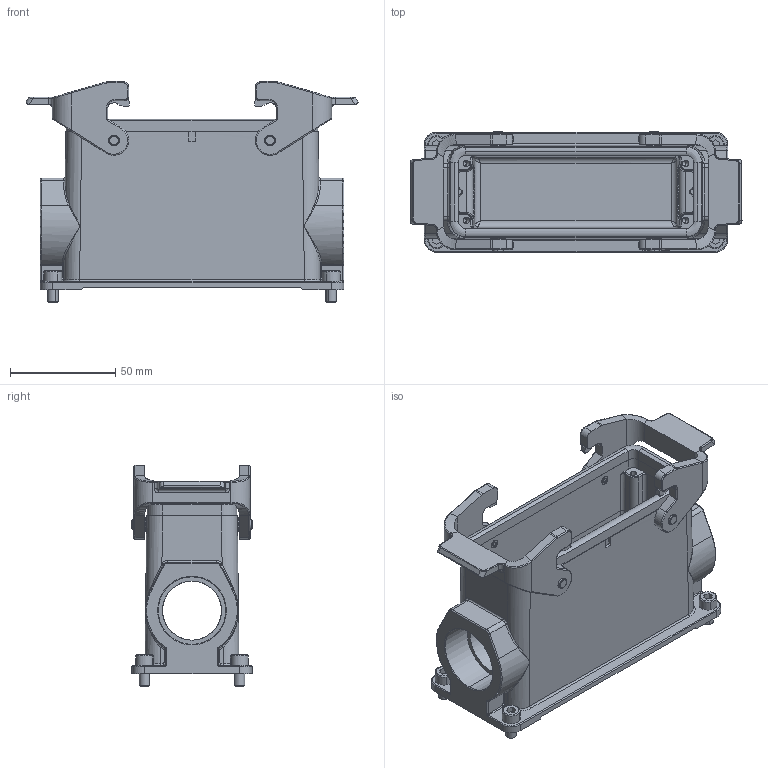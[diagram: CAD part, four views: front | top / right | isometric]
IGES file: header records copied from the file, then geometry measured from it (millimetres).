
Start section: 3D InterOp IGES (Version 25 0 2), Spatial Corp. Copyright (c) 1999-2007.
Global section: file name: E2711_81_24B.igs; native system: Spatial Corp.; preprocessor: 3D InterOp GENERIC/IGES 3.0; author: Noname; organization: Noname; date: 20160920.090201; units: metre
Bounding box: 157.4 x 57.09 x 104.8 mm (x, y, z)
Volume: 188104.8 mm3; surface area: 83373.2 mm2
Topology: 7 solids, 7 shells, 730 faces, 1792 edges, 1086 vertices
Faces by surface type: cylinder 307, plane 224, bspline 86, torus 74, cone 39
